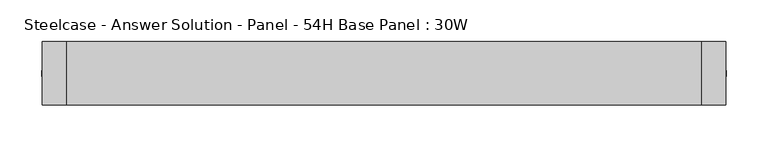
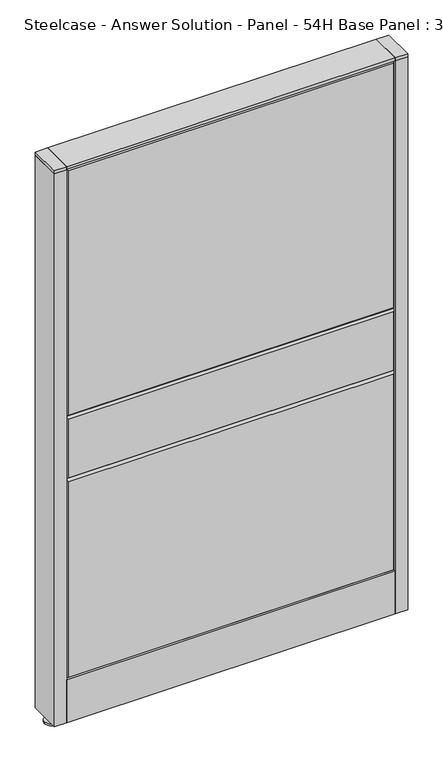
"""IFC4 building model written with IfcOpenShell, lengths in millimetres: furniture geometry, Steelcase - Answer Solution - Panel - 54H Base Panel : 30W."""

from ifc_helpers import new_model, si_unit, point, frame, frame_2d, origin, place, context, project, spatial, polyline, circle_curve, trimmed, segment, composite_curve, outline, extrude, faceted_brep, source, transform, mapped, element, save


def steelcase_answer_solution_panel_54h_base_panel_30w_77ab9a0d(model_context):
    return source(origin(), model_context, "Body", "SolidModel", [
        extrude(outline(composite_curve([segment(trimmed(circle_curve(frame_2d((395.224, 0.0320214)), 5.08), [point((400.304, 0.0320214))], [point((390.144, 0.0320214))], False, "CARTESIAN"), True, "CONTINUOUS"), segment(trimmed(circle_curve(frame_2d((395.224, 0.0320214)), 5.08), [point((390.144, 0.0320214))], [point((400.304, 0.0320214))], False, "CARTESIAN"), True, "CONTINUOUS")], self_intersect=False)), frame((0.0, 0.0, 5.0799671), z_axis=(0.0, 0.0, 1.0), x_axis=(1.0, 0.0, 0.0)), (0.0, 0.0, 1.0), 10.414),
        extrude(outline(composite_curve([segment(trimmed(circle_curve(frame_2d((395.224, 0.0320214)), 15.24), [point((410.464, 0.0320214))], [point((379.984, 0.0320214))], False, "CARTESIAN"), True, "CONTINUOUS"), segment(trimmed(circle_curve(frame_2d((395.224, 0.0320214)), 15.24), [point((379.984, 0.0320214))], [point((410.464, 0.0320214))], False, "CARTESIAN"), True, "CONTINUOUS")], self_intersect=False)), frame((0.0, 0.0, -3.29e-05), z_axis=(0.0, 0.0, 1.0), x_axis=(1.0, 0.0, 0.0)), (0.0, 0.0, 1.0), 5.08),
        extrude(outline(polyline([(409.575, 38.1320408), (409.575, -38.0679592), (381.0, -38.0679592), (381.0, 38.1320408), (409.575, 38.1320408)])), frame((0.0, 0.0, 1370.6348), z_axis=(0.0, 0.0, 1.0), x_axis=(1.0, 0.0, 0.0)), (0.0, 0.0, 1.0), 7.3151671),
        extrude(outline(polyline([(409.575, 38.1320408), (409.575, -38.0679592), (381.0, -38.0679592), (381.0, 38.1320408), (409.575, 38.1320408)])), frame((0.0, 0.0, 15.4939671), z_axis=(0.0, 0.0, 1.0), x_axis=(1.0, 0.0, 0.0)), (0.0, 0.0, 1.0), 1355.1408329),
        extrude(outline(composite_curve([segment(trimmed(circle_curve(frame_2d((-395.224, 0.0320214)), 5.08), [point((-400.304, 0.0320214))], [point((-390.144, 0.0320214))], False, "CARTESIAN"), True, "CONTINUOUS"), segment(trimmed(circle_curve(frame_2d((-395.224, 0.0320214)), 5.08), [point((-390.144, 0.0320214))], [point((-400.304, 0.0320214))], False, "CARTESIAN"), True, "CONTINUOUS")], self_intersect=False)), frame((0.0, 0.0, 5.0799671), z_axis=(0.0, 0.0, 1.0), x_axis=(1.0, 0.0, 0.0)), (0.0, 0.0, 1.0), 10.414),
        extrude(outline(composite_curve([segment(trimmed(circle_curve(frame_2d((-395.224, 0.0320214)), 15.24), [point((-410.464, 0.0320214))], [point((-379.984, 0.0320214))], False, "CARTESIAN"), True, "CONTINUOUS"), segment(trimmed(circle_curve(frame_2d((-395.224, 0.0320214)), 15.24), [point((-379.984, 0.0320214))], [point((-410.464, 0.0320214))], False, "CARTESIAN"), True, "CONTINUOUS")], self_intersect=False)), frame((0.0, 0.0, -3.29e-05), z_axis=(0.0, 0.0, 1.0), x_axis=(1.0, 0.0, 0.0)), (0.0, 0.0, 1.0), 5.08),
        extrude(outline(polyline([(-409.575, 38.1320408), (-381.0, 38.1320408), (-381.0, -38.0679592), (-409.575, -38.0679592), (-409.575, 38.1320408)])), frame((0.0, 0.0, 1370.6348), z_axis=(0.0, 0.0, 1.0), x_axis=(1.0, 0.0, 0.0)), (0.0, 0.0, 1.0), 7.3151671),
        extrude(outline(polyline([(-409.575, 38.1320408), (-381.0, 38.1320408), (-381.0, -38.0679592), (-409.575, -38.0679592), (-409.575, 38.1320408)])), frame((0.0, 0.0, 15.4939671), z_axis=(0.0, 0.0, 1.0), x_axis=(1.0, 0.0, 0.0)), (0.0, 0.0, 1.0), 1355.1408329),
        faceted_brep([(-376.174, 38.1635011, 1366.774), (376.174, 38.1635011, 1366.774), (376.174, 38.1635011, 766.826), (-376.174, 38.1635011, 766.826), (-381.0, 33.3375011, 1371.6), (-381.0, 33.3375011, 762.0), (381.0, 33.3375011, 762.0), (381.0, 33.3375011, 1371.6)], [[[0, 1, 2, 3]], [[4, 5, 6, 7]], [[4, 7, 1, 0]], [[7, 6, 2, 1]], [[6, 5, 3, 2]], [[5, 4, 0, 3]]]),
        faceted_brep([(-376.174, 38.1635011, 757.174), (376.174, 38.1635011, 757.174), (376.174, 38.1635011, 614.426), (-376.174, 38.1635011, 614.426), (-381.0, 33.3375011, 762.0), (-381.0, 33.3375011, 609.6), (381.0, 33.3375011, 609.6), (381.0, 33.3375011, 762.0)], [[[0, 1, 2, 3]], [[4, 5, 6, 7]], [[4, 7, 1, 0]], [[7, 6, 2, 1]], [[6, 5, 3, 2]], [[5, 4, 0, 3]]]),
        faceted_brep([(-376.174, 38.1635011, 604.774), (376.174, 38.1635011, 604.774), (376.174, 38.1635011, 125.476), (-376.174, 38.1635011, 125.476), (-381.0, 33.3375011, 609.6), (-381.0, 33.3375011, 120.65), (381.0, 33.3375011, 120.65), (381.0, 33.3375011, 609.6)], [[[0, 1, 2, 3]], [[4, 5, 6, 7]], [[4, 7, 1, 0]], [[7, 6, 2, 1]], [[6, 5, 3, 2]], [[5, 4, 0, 3]]]),
        faceted_brep([(376.174, -38.1635011, 1366.774), (-376.174, -38.1635011, 1366.774), (-376.174, -38.1635011, 766.826), (376.174, -38.1635011, 766.826), (381.0, -33.3375011, 1371.6), (381.0, -33.3375011, 762.0), (-381.0, -33.3375011, 762.0), (-381.0, -33.3375011, 1371.6)], [[[0, 1, 2, 3]], [[4, 5, 6, 7]], [[4, 7, 1, 0]], [[7, 6, 2, 1]], [[6, 5, 3, 2]], [[5, 4, 0, 3]]]),
        faceted_brep([(376.174, -38.1635011, 757.174), (-376.174, -38.1635011, 757.174), (-376.174, -38.1635011, 614.426), (376.174, -38.1635011, 614.426), (381.0, -33.3375011, 762.0), (381.0, -33.3375011, 609.6), (-381.0, -33.3375011, 609.6), (-381.0, -33.3375011, 762.0)], [[[0, 1, 2, 3]], [[4, 5, 6, 7]], [[4, 7, 1, 0]], [[7, 6, 2, 1]], [[6, 5, 3, 2]], [[5, 4, 0, 3]]]),
        faceted_brep([(376.174, -38.1635011, 604.774), (-376.174, -38.1635011, 604.774), (-376.174, -38.1635011, 125.476), (376.174, -38.1635011, 125.476), (381.0, -33.3375011, 609.6), (381.0, -33.3375011, 120.65), (-381.0, -33.3375011, 120.65), (-381.0, -33.3375011, 609.6)], [[[0, 1, 2, 3]], [[4, 5, 6, 7]], [[4, 7, 1, 0]], [[7, 6, 2, 1]], [[6, 5, 3, 2]], [[5, 4, 0, 3]]]),
        extrude(outline(polyline([(381.0, 38.1000194), (381.0, -38.1000194), (-381.0, -38.1000194), (-381.0, 38.1000194), (381.0, 38.1000194)])), frame((0.0, 0.0, 1371.6), z_axis=(0.0, 0.0, 1.0), x_axis=(1.0, 0.0, 0.0)), (0.0, 0.0, 1.0), 6.35),
        extrude(outline(polyline([(25.4000011, 119.8575157), (25.4000011, 120.65), (38.1000194, 120.65), (38.1000194, 15.494), (37.3075215, 15.494), (37.3075215, 119.8575157), (25.4000011, 119.8575157)])), frame((-381.0, 0.0, 0.0), z_axis=(1.0, 0.0, 0.0), x_axis=(0.0, 1.0, 0.0)), (0.0, 0.0, 1.0), 762.0),
        extrude(outline(polyline([(-25.4000011, 119.8575157), (-37.3075215, 119.8575157), (-37.3075215, 15.494), (-38.1000194, 15.494), (-38.1000194, 120.65), (-25.4000011, 120.65), (-25.4000011, 119.8575157)])), frame((-381.0, 0.0, 0.0), z_axis=(1.0, 0.0, 0.0), x_axis=(0.0, 1.0, 0.0)), (0.0, 0.0, 1.0), 762.0),
    ])


if __name__ == "__main__":
    model = new_model("IFC4")
    model_context = context("Model", 3, world=origin())
    ifc_project = project(units=[si_unit("LENGTHUNIT", "METRE", prefix="MILLI")], contexts=[model_context])
    site = spatial("IfcSite", under=ifc_project)
    building = spatial("IfcBuilding", under=site)
    placement = place(None, origin())
    steelcase_answer_solution_panel_54h_base_panel_30w_shape = steelcase_answer_solution_panel_54h_base_panel_30w_77ab9a0d(model_context)
    element("IfcFurniture", 1, ObjectType="Steelcase - Answer Solution - Panel - 54H Base Panel : 30W", at=placement, inside=building, context=model_context, shape_type="MappedRepresentation", body=[
        mapped(steelcase_answer_solution_panel_54h_base_panel_30w_shape, transform((0.0, 0.0, 0.0), x_axis=(1.0, 0.0, 0.0), y_axis=(0.0, 1.0, 0.0), z_axis=(0.0, 0.0, 1.0))),
    ])
    save(model, "model.ifc")
